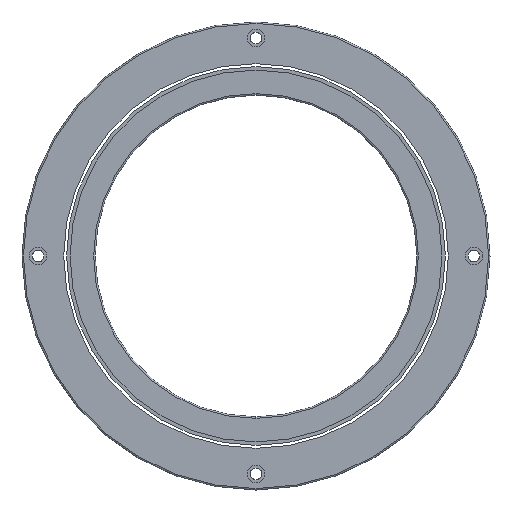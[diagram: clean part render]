
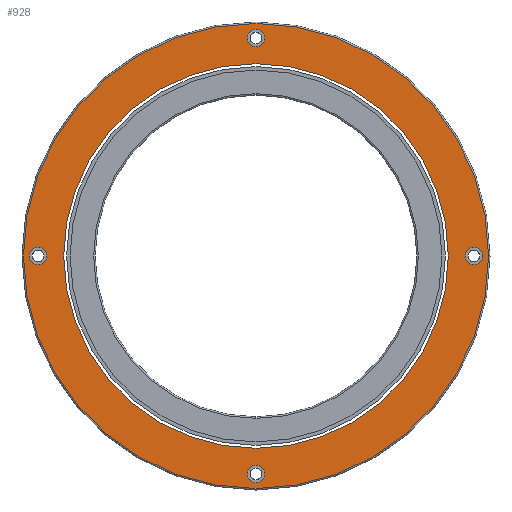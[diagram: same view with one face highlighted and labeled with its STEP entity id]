
A CAD part, front view. The second image highlights one B-rep face of the part: STEP entity #928.
In plain terms, the highlighted planar face has unit normal (0, -1, 0).
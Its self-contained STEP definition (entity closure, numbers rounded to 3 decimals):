
#43=CARTESIAN_POINT('',(0.,0.,0.));
#44=DIRECTION('',(0.,-1.,0.));
#45=DIRECTION('',(-1.,0.,0.));
#46=AXIS2_PLACEMENT_3D('',#43,#44,#45);
#48=CARTESIAN_POINT('',(0.,0.,0.));
#49=DIRECTION('',(0.,1.,0.));
#50=DIRECTION('',(-1.,0.,0.));
#51=AXIS2_PLACEMENT_3D('',#48,#49,#50);
#53=CARTESIAN_POINT('',(-74.5,0.,0.));
#54=DIRECTION('',(0.,1.,0.));
#55=DIRECTION('',(1.,0.,0.));
#56=AXIS2_PLACEMENT_3D('',#53,#54,#55);
#58=CARTESIAN_POINT('',(-74.5,0.,0.));
#59=DIRECTION('',(0.,1.,0.));
#60=DIRECTION('',(-1.,0.,0.));
#61=AXIS2_PLACEMENT_3D('',#58,#59,#60);
#63=CARTESIAN_POINT('',(0.,0.,74.5));
#64=DIRECTION('',(0.,1.,0.));
#65=DIRECTION('',(0.,0.,-1.));
#66=AXIS2_PLACEMENT_3D('',#63,#64,#65);
#68=CARTESIAN_POINT('',(0.,0.,74.5));
#69=DIRECTION('',(0.,1.,0.));
#70=DIRECTION('',(0.,0.,1.));
#71=AXIS2_PLACEMENT_3D('',#68,#69,#70);
#73=CARTESIAN_POINT('',(74.5,0.,0.));
#74=DIRECTION('',(0.,1.,0.));
#75=DIRECTION('',(-1.,0.,0.));
#76=AXIS2_PLACEMENT_3D('',#73,#74,#75);
#78=CARTESIAN_POINT('',(74.5,0.,0.));
#79=DIRECTION('',(0.,1.,0.));
#80=DIRECTION('',(1.,0.,0.));
#81=AXIS2_PLACEMENT_3D('',#78,#79,#80);
#83=CARTESIAN_POINT('',(0.,0.,-74.5));
#84=DIRECTION('',(0.,1.,0.));
#85=DIRECTION('',(0.,0.,1.));
#86=AXIS2_PLACEMENT_3D('',#83,#84,#85);
#88=CARTESIAN_POINT('',(0.,0.,-74.5));
#89=DIRECTION('',(0.,1.,0.));
#90=DIRECTION('',(0.,0.,-1.));
#91=AXIS2_PLACEMENT_3D('',#88,#89,#90);
#93=CARTESIAN_POINT('',(0.,0.,0.));
#94=DIRECTION('',(0.,1.,0.));
#95=DIRECTION('',(-1.,0.,0.));
#96=AXIS2_PLACEMENT_3D('',#93,#94,#95);
#98=CARTESIAN_POINT('',(0.,0.,0.));
#99=DIRECTION('',(0.,1.,0.));
#100=DIRECTION('',(1.,0.,0.));
#101=AXIS2_PLACEMENT_3D('',#98,#99,#100);
#751=CARTESIAN_POINT('',(-71.5,0.,0.));
#752=VERTEX_POINT('',#751);
#753=CARTESIAN_POINT('',(-77.5,0.,0.));
#754=VERTEX_POINT('',#753);
#763=CARTESIAN_POINT('',(0.,0.,71.5));
#764=VERTEX_POINT('',#763);
#765=CARTESIAN_POINT('',(0.,0.,77.5));
#766=VERTEX_POINT('',#765);
#775=CARTESIAN_POINT('',(71.5,0.,0.));
#776=VERTEX_POINT('',#775);
#777=CARTESIAN_POINT('',(77.5,0.,0.));
#778=VERTEX_POINT('',#777);
#787=CARTESIAN_POINT('',(0.,0.,-71.5));
#788=VERTEX_POINT('',#787);
#789=CARTESIAN_POINT('',(0.,0.,-77.5));
#790=VERTEX_POINT('',#789);
#808=CARTESIAN_POINT('',(-65.75,0.,0.));
#810=VERTEX_POINT('',#808);
#812=CARTESIAN_POINT('',(65.75,0.,0.));
#814=VERTEX_POINT('',#812);
#827=CARTESIAN_POINT('',(-79.5,0.,0.));
#828=CARTESIAN_POINT('',(79.5,0.,0.));
#829=VERTEX_POINT('',#827);
#830=VERTEX_POINT('',#828);
#889=CARTESIAN_POINT('',(0.,0.,0.));
#890=DIRECTION('',(0.,1.,0.));
#891=DIRECTION('',(1.,0.,0.));
#892=AXIS2_PLACEMENT_3D('',#889,#890,#891);
#893=PLANE('',#892);
#895=ORIENTED_EDGE('',*,*,#894,.T.);
#897=ORIENTED_EDGE('',*,*,#896,.T.);
#898=EDGE_LOOP('',(#895,#897));
#899=FACE_OUTER_BOUND('',#898,.F.);
#900=ORIENTED_EDGE('',*,*,#868,.F.);
#901=ORIENTED_EDGE('',*,*,#884,.F.);
#902=EDGE_LOOP('',(#900,#901));
#903=FACE_BOUND('',#902,.F.);
#905=ORIENTED_EDGE('',*,*,#904,.F.);
#907=ORIENTED_EDGE('',*,*,#906,.F.);
#908=EDGE_LOOP('',(#905,#907));
#909=FACE_BOUND('',#908,.F.);
#911=ORIENTED_EDGE('',*,*,#910,.F.);
#913=ORIENTED_EDGE('',*,*,#912,.F.);
#914=EDGE_LOOP('',(#911,#913));
#915=FACE_BOUND('',#914,.F.);
#917=ORIENTED_EDGE('',*,*,#916,.F.);
#919=ORIENTED_EDGE('',*,*,#918,.F.);
#920=EDGE_LOOP('',(#917,#919));
#921=FACE_BOUND('',#920,.F.);
#923=ORIENTED_EDGE('',*,*,#922,.T.);
#925=ORIENTED_EDGE('',*,*,#924,.F.);
#926=EDGE_LOOP('',(#923,#925));
#927=FACE_BOUND('',#926,.F.);
#47=CIRCLE('',#46,65.75);
#52=CIRCLE('',#51,65.75);
#57=CIRCLE('',#56,3.);
#62=CIRCLE('',#61,3.);
#67=CIRCLE('',#66,3.);
#72=CIRCLE('',#71,3.);
#77=CIRCLE('',#76,3.);
#82=CIRCLE('',#81,3.);
#87=CIRCLE('',#86,3.);
#92=CIRCLE('',#91,3.);
#97=CIRCLE('',#96,79.5);
#102=CIRCLE('',#101,79.5);
#868=EDGE_CURVE('',#752,#754,#57,.T.);
#884=EDGE_CURVE('',#754,#752,#62,.T.);
#894=EDGE_CURVE('',#829,#830,#97,.T.);
#896=EDGE_CURVE('',#830,#829,#102,.T.);
#904=EDGE_CURVE('',#764,#766,#67,.T.);
#906=EDGE_CURVE('',#766,#764,#72,.T.);
#910=EDGE_CURVE('',#776,#778,#77,.T.);
#912=EDGE_CURVE('',#778,#776,#82,.T.);
#916=EDGE_CURVE('',#788,#790,#87,.T.);
#918=EDGE_CURVE('',#790,#788,#92,.T.);
#922=EDGE_CURVE('',#810,#814,#47,.T.);
#924=EDGE_CURVE('',#810,#814,#52,.T.);
#928=ADVANCED_FACE('',(#899,#903,#909,#915,#921,#927),#893,.F.);
